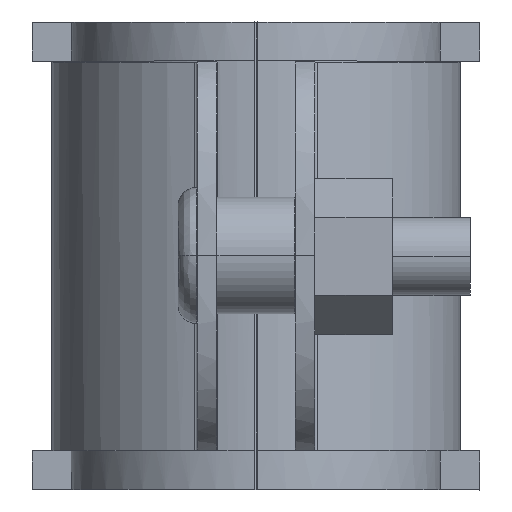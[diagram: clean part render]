
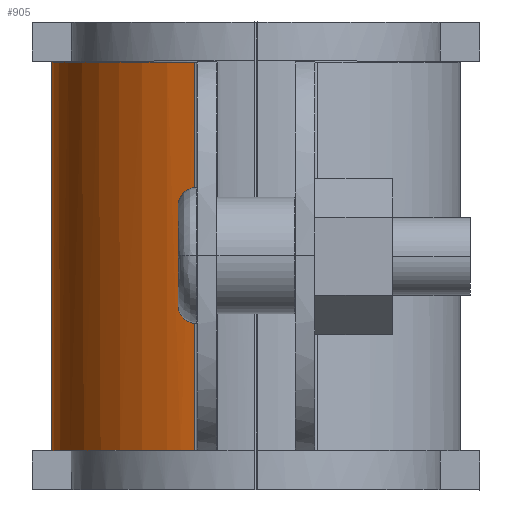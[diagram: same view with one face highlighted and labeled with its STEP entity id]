
A CAD part, top view. The second image highlights one B-rep face of the part: STEP entity #905.
In plain terms, the highlighted free-form (B-spline) face has degree [3, 1] with [4, 2] control points.
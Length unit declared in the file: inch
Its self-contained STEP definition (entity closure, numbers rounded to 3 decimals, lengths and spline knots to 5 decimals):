
#511=EDGE_CURVE('',#1248,#1249,#1250,.T.);
#607=EDGE_CURVE('',#1248,#1020,#1387,.T.);
#701=EDGE_CURVE('',#1522,#1020,#1523,.T.);
#823=EDGE_CURVE('',#1249,#1522,#1684,.T.);
#905=ADVANCED_FACE('',(#1788),#1789,.T.);
#1020=VERTEX_POINT('',#1937);
#1248=VERTEX_POINT('',#2300);
#1249=VERTEX_POINT('',#2301);
#1250=B_SPLINE_CURVE_WITH_KNOTS('',3,(#2302,#2303,#2304,#2305),.UNSPECIFIED.,.F.,.F.,(4,4),(-1.0,-0.0),.UNSPECIFIED.);
#1387=LINE('',#2538,#2539);
#1522=VERTEX_POINT('',#2889);
#1523=B_SPLINE_CURVE_WITH_KNOTS('',3,(#2890,#2891,#2892,#2893),.UNSPECIFIED.,.F.,.F.,(4,4),(0.0,1.0),.UNSPECIFIED.);
#1684=LINE('',#3268,#3269);
#1788=FACE_OUTER_BOUND('',#3505,.T.);
#1789=B_SPLINE_SURFACE_WITH_KNOTS('',3,1,((#3506,#3507),(#3508,#3509),(#3510,#3511),(#3512,#3513)),.UNSPECIFIED.,.F.,.F.,.F.,(4,4),(2,2),(-1.0,-0.0),(0.0,1.25),.UNSPECIFIED.);
#1937=CARTESIAN_POINT('',(0.45879,0.0,1.95473));
#2300=CARTESIAN_POINT('',(0.45879,1.24627,1.95473));
#2301=CARTESIAN_POINT('',(0.00007,1.24627,1.32975));
#2302=CARTESIAN_POINT('',(0.45879,1.24627,1.95473));
#2303=CARTESIAN_POINT('',(0.19319,1.24627,1.87117));
#2304=CARTESIAN_POINT('',(0.00007,1.24627,1.62293));
#2305=CARTESIAN_POINT('',(0.00007,1.24627,1.32975));
#2538=CARTESIAN_POINT('',(0.45879,1.25,1.95473));
#2539=VECTOR('',#4260,1.0);
#2889=CARTESIAN_POINT('',(0.00007,0.0,1.32975));
#2890=CARTESIAN_POINT('',(0.00007,0.0,1.32975));
#2891=CARTESIAN_POINT('',(0.00007,0.0,1.62293));
#2892=CARTESIAN_POINT('',(0.19319,0.0,1.87117));
#2893=CARTESIAN_POINT('',(0.45879,0.0,1.95473));
#3268=CARTESIAN_POINT('',(0.00007,1.25,1.32975));
#3269=VECTOR('',#4757,1.0);
#3505=EDGE_LOOP('',(#4920,#4921,#4922,#4923));
#3506=CARTESIAN_POINT('',(0.45879,1.25,1.95473));
#3507=CARTESIAN_POINT('',(0.45879,0.0,1.95473));
#3508=CARTESIAN_POINT('',(0.19319,1.25,1.87117));
#3509=CARTESIAN_POINT('',(0.19319,0.0,1.87117));
#3510=CARTESIAN_POINT('',(0.00007,1.25,1.62293));
#3511=CARTESIAN_POINT('',(0.00007,0.0,1.62293));
#3512=CARTESIAN_POINT('',(0.00007,1.25,1.32975));
#3513=CARTESIAN_POINT('',(0.00007,0.0,1.32975));
#4260=DIRECTION('',(0.0,-1.0,0.0));
#4757=DIRECTION('',(0.0,-1.0,0.0));
#4920=ORIENTED_EDGE('',*,*,#511,.T.);
#4921=ORIENTED_EDGE('',*,*,#823,.T.);
#4922=ORIENTED_EDGE('',*,*,#701,.T.);
#4923=ORIENTED_EDGE('',*,*,#607,.F.);
